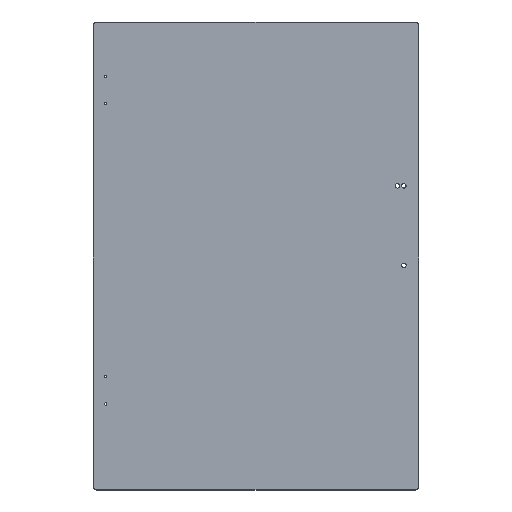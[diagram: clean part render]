
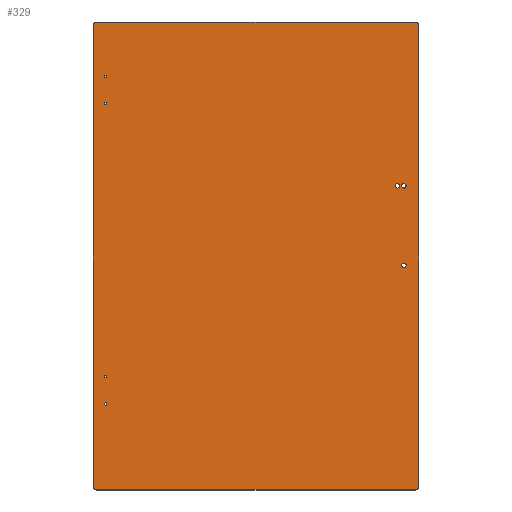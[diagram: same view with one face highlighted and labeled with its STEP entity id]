
A CAD part, top view. The second image highlights one B-rep face of the part: STEP entity #329.
In plain terms, the highlighted planar face has unit normal (0, 0, 1).
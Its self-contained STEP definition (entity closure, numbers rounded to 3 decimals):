
#15=FACE_BOUND('',#55,.T.);
#16=FACE_BOUND('',#56,.T.);
#17=FACE_BOUND('',#57,.T.);
#18=FACE_BOUND('',#58,.T.);
#19=FACE_BOUND('',#59,.T.);
#20=FACE_BOUND('',#60,.T.);
#21=FACE_BOUND('',#61,.T.);
#30=PLANE('',#362);
#37=FACE_OUTER_BOUND('',#54,.T.);
#54=EDGE_LOOP('',(#234,#235,#236,#237,#238,#239,#240,#241));
#55=EDGE_LOOP('',(#242));
#56=EDGE_LOOP('',(#243));
#57=EDGE_LOOP('',(#244));
#58=EDGE_LOOP('',(#245));
#59=EDGE_LOOP('',(#246));
#60=EDGE_LOOP('',(#247));
#61=EDGE_LOOP('',(#248));
#85=LINE('',#512,#108);
#88=LINE('',#518,#111);
#89=LINE('',#522,#112);
#90=LINE('',#526,#113);
#108=VECTOR('',#409,10.);
#111=VECTOR('',#414,10.);
#112=VECTOR('',#417,10.);
#113=VECTOR('',#420,10.);
#129=CIRCLE('',#359,5.);
#131=CIRCLE('',#363,5.);
#132=CIRCLE('',#364,5.);
#133=CIRCLE('',#365,5.);
#134=CIRCLE('',#366,3.1);
#135=CIRCLE('',#367,3.1);
#136=CIRCLE('',#368,3.1);
#137=CIRCLE('',#369,1.666);
#138=CIRCLE('',#370,1.666);
#139=CIRCLE('',#371,1.666);
#140=CIRCLE('',#372,1.666);
#151=VERTEX_POINT('',#502);
#152=VERTEX_POINT('',#503);
#155=VERTEX_POINT('',#511);
#157=VERTEX_POINT('',#517);
#158=VERTEX_POINT('',#519);
#159=VERTEX_POINT('',#521);
#160=VERTEX_POINT('',#523);
#161=VERTEX_POINT('',#525);
#162=VERTEX_POINT('',#528);
#163=VERTEX_POINT('',#530);
#164=VERTEX_POINT('',#532);
#165=VERTEX_POINT('',#534);
#166=VERTEX_POINT('',#536);
#167=VERTEX_POINT('',#538);
#168=VERTEX_POINT('',#540);
#181=EDGE_CURVE('',#151,#152,#129,.T.);
#185=EDGE_CURVE('',#155,#152,#85,.F.);
#188=EDGE_CURVE('',#151,#157,#88,.T.);
#189=EDGE_CURVE('',#158,#157,#131,.T.);
#190=EDGE_CURVE('',#158,#159,#89,.T.);
#191=EDGE_CURVE('',#160,#159,#132,.T.);
#192=EDGE_CURVE('',#160,#161,#90,.T.);
#193=EDGE_CURVE('',#155,#161,#133,.T.);
#194=EDGE_CURVE('',#162,#162,#134,.T.);
#195=EDGE_CURVE('',#163,#163,#135,.T.);
#196=EDGE_CURVE('',#164,#164,#136,.T.);
#197=EDGE_CURVE('',#165,#165,#137,.T.);
#198=EDGE_CURVE('',#166,#166,#138,.T.);
#199=EDGE_CURVE('',#167,#167,#139,.T.);
#200=EDGE_CURVE('',#168,#168,#140,.T.);
#234=ORIENTED_EDGE('',*,*,#181,.F.);
#235=ORIENTED_EDGE('',*,*,#188,.T.);
#236=ORIENTED_EDGE('',*,*,#189,.F.);
#237=ORIENTED_EDGE('',*,*,#190,.T.);
#238=ORIENTED_EDGE('',*,*,#191,.F.);
#239=ORIENTED_EDGE('',*,*,#192,.T.);
#240=ORIENTED_EDGE('',*,*,#193,.F.);
#241=ORIENTED_EDGE('',*,*,#185,.T.);
#242=ORIENTED_EDGE('',*,*,#194,.T.);
#243=ORIENTED_EDGE('',*,*,#195,.T.);
#244=ORIENTED_EDGE('',*,*,#196,.T.);
#245=ORIENTED_EDGE('',*,*,#197,.T.);
#246=ORIENTED_EDGE('',*,*,#198,.T.);
#247=ORIENTED_EDGE('',*,*,#199,.T.);
#248=ORIENTED_EDGE('',*,*,#200,.T.);
#329=ADVANCED_FACE('',(#37,#15,#16,#17,#18,#19,#20,#21),#30,.T.);
#359=AXIS2_PLACEMENT_3D('',#504,#401,#402);
#362=AXIS2_PLACEMENT_3D('',#516,#412,#413);
#363=AXIS2_PLACEMENT_3D('',#520,#415,#416);
#364=AXIS2_PLACEMENT_3D('',#524,#418,#419);
#365=AXIS2_PLACEMENT_3D('',#527,#421,#422);
#366=AXIS2_PLACEMENT_3D('',#529,#423,#424);
#367=AXIS2_PLACEMENT_3D('',#531,#425,#426);
#368=AXIS2_PLACEMENT_3D('',#533,#427,#428);
#369=AXIS2_PLACEMENT_3D('',#535,#429,#430);
#370=AXIS2_PLACEMENT_3D('',#537,#431,#432);
#371=AXIS2_PLACEMENT_3D('',#539,#433,#434);
#372=AXIS2_PLACEMENT_3D('',#541,#435,#436);
#401=DIRECTION('center_axis',(0.,0.,-1.));
#402=DIRECTION('ref_axis',(0.707,-0.707,0.));
#409=DIRECTION('',(-1.,0.,0.));
#412=DIRECTION('center_axis',(0.,0.,1.));
#413=DIRECTION('ref_axis',(1.,0.,0.));
#414=DIRECTION('',(0.,1.,0.));
#415=DIRECTION('center_axis',(0.,0.,-1.));
#416=DIRECTION('ref_axis',(0.707,0.707,0.));
#417=DIRECTION('',(-1.,0.,0.));
#418=DIRECTION('center_axis',(0.,0.,-1.));
#419=DIRECTION('ref_axis',(-0.707,0.707,0.));
#420=DIRECTION('',(0.,-1.,0.));
#421=DIRECTION('center_axis',(0.,0.,-1.));
#422=DIRECTION('ref_axis',(-0.707,-0.707,0.));
#423=DIRECTION('center_axis',(0.,0.,-1.));
#424=DIRECTION('ref_axis',(-1.,0.,0.));
#425=DIRECTION('center_axis',(0.,0.,-1.));
#426=DIRECTION('ref_axis',(-1.,0.,0.));
#427=DIRECTION('center_axis',(0.,0.,-1.));
#428=DIRECTION('ref_axis',(-1.,0.,0.));
#429=DIRECTION('center_axis',(0.,0.,-1.));
#430=DIRECTION('ref_axis',(1.,0.,0.));
#431=DIRECTION('center_axis',(0.,0.,-1.));
#432=DIRECTION('ref_axis',(1.,0.,0.));
#433=DIRECTION('center_axis',(0.,0.,-1.));
#434=DIRECTION('ref_axis',(1.,0.,0.));
#435=DIRECTION('center_axis',(0.,0.,-1.));
#436=DIRECTION('ref_axis',(1.,0.,0.));
#502=CARTESIAN_POINT('',(454.66,77.7,5.));
#503=CARTESIAN_POINT('',(449.66,72.7,5.));
#504=CARTESIAN_POINT('Origin',(449.66,77.7,5.));
#511=CARTESIAN_POINT('',(5.,72.7,5.));
#512=CARTESIAN_POINT('',(113.665,72.7,5.));
#516=CARTESIAN_POINT('Origin',(227.33,381.,5.));
#517=CARTESIAN_POINT('',(454.66,722.,5.));
#518=CARTESIAN_POINT('',(454.66,0.,5.));
#519=CARTESIAN_POINT('',(449.66,727.,5.));
#520=CARTESIAN_POINT('Origin',(449.66,722.,5.));
#521=CARTESIAN_POINT('',(5.,727.,5.));
#522=CARTESIAN_POINT('',(340.995,727.,5.));
#523=CARTESIAN_POINT('',(0.,722.,5.));
#524=CARTESIAN_POINT('Origin',(5.,722.,5.));
#525=CARTESIAN_POINT('',(0.,77.7,5.));
#526=CARTESIAN_POINT('',(0.,762.,5.));
#527=CARTESIAN_POINT('Origin',(5.,77.7,5.));
#528=CARTESIAN_POINT('',(437.1,497.95,5.));
#529=CARTESIAN_POINT('Origin',(434.,497.95,5.));
#530=CARTESIAN_POINT('',(437.1,386.825,5.));
#531=CARTESIAN_POINT('Origin',(434.,386.825,5.));
#532=CARTESIAN_POINT('',(428.1,497.95,5.));
#533=CARTESIAN_POINT('Origin',(425.,497.95,5.));
#534=CARTESIAN_POINT('',(15.334,650.95,5.));
#535=CARTESIAN_POINT('Origin',(17.,650.95,5.));
#536=CARTESIAN_POINT('',(15.334,192.95,5.));
#537=CARTESIAN_POINT('Origin',(17.,192.95,5.));
#538=CARTESIAN_POINT('',(15.334,612.85,5.));
#539=CARTESIAN_POINT('Origin',(17.,612.85,5.));
#540=CARTESIAN_POINT('',(15.334,231.05,5.));
#541=CARTESIAN_POINT('Origin',(17.,231.05,5.));
